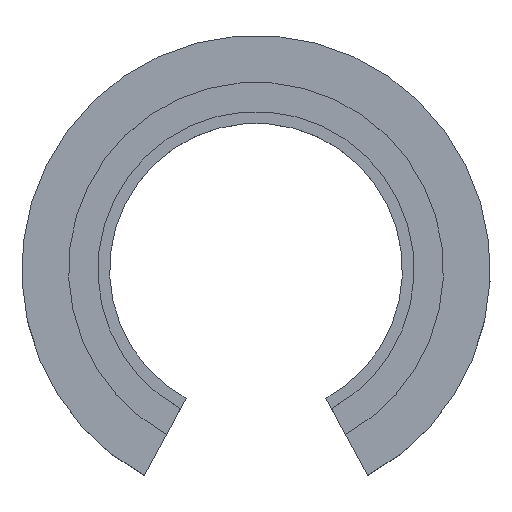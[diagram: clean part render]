
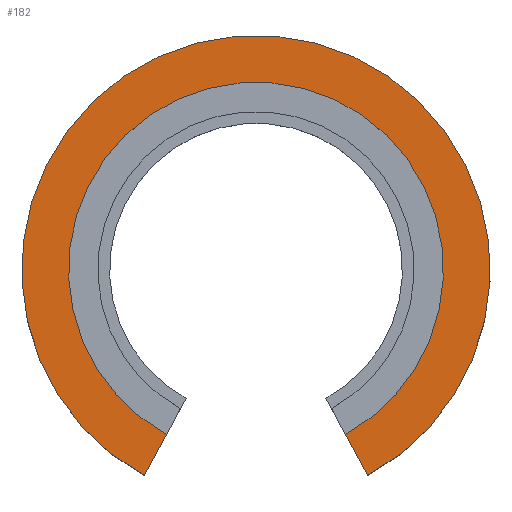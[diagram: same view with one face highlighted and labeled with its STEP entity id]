
A CAD part, top view. The second image highlights one B-rep face of the part: STEP entity #182.
In plain terms, the highlighted planar face has unit normal (0, 0, 1).
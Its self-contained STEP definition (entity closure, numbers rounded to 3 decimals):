
#22=CIRCLE('',#231,16.);
#23=CIRCLE('',#233,20.);
#36=FACE_OUTER_BOUND('',#46,.T.);
#46=EDGE_LOOP('',(#151,#152,#153,#154));
#52=LINE('',#307,#68);
#66=LINE('',#335,#82);
#68=VECTOR('',#249,10.);
#82=VECTOR('',#265,10.);
#83=VERTEX_POINT('',#303);
#85=VERTEX_POINT('',#306);
#92=VERTEX_POINT('',#321);
#98=VERTEX_POINT('',#333);
#100=EDGE_CURVE('',#85,#83,#52,.T.);
#114=EDGE_CURVE('',#92,#98,#66,.T.);
#118=EDGE_CURVE('',#98,#85,#22,.T.);
#119=EDGE_CURVE('',#83,#92,#23,.T.);
#151=ORIENTED_EDGE('',*,*,#100,.T.);
#152=ORIENTED_EDGE('',*,*,#119,.T.);
#153=ORIENTED_EDGE('',*,*,#114,.T.);
#154=ORIENTED_EDGE('',*,*,#118,.T.);
#174=PLANE('',#232);
#182=ADVANCED_FACE('',(#36),#174,.T.);
#231=AXIS2_PLACEMENT_3D('',#342,#278,#279);
#232=AXIS2_PLACEMENT_3D('',#343,#280,#281);
#233=AXIS2_PLACEMENT_3D('',#344,#282,#283);
#249=DIRECTION('',(0.477,-0.879,0.));
#265=DIRECTION('',(0.477,0.879,0.));
#278=DIRECTION('center_axis',(0.,0.,-1.));
#279=DIRECTION('ref_axis',(-1.,0.,0.));
#280=DIRECTION('center_axis',(0.,0.,1.));
#281=DIRECTION('ref_axis',(1.,0.,0.));
#282=DIRECTION('center_axis',(0.,0.,1.));
#283=DIRECTION('ref_axis',(1.,0.,0.));
#303=CARTESIAN_POINT('',(9.543,-17.576,2.));
#306=CARTESIAN_POINT('',(7.635,-14.061,2.));
#307=CARTESIAN_POINT('',(0.,0.,2.));
#321=CARTESIAN_POINT('',(-9.543,-17.576,2.));
#333=CARTESIAN_POINT('',(-7.635,-14.061,2.));
#335=CARTESIAN_POINT('',(-6.382,-11.754,2.));
#342=CARTESIAN_POINT('Origin',(0.,0.,2.));
#343=CARTESIAN_POINT('Origin',(0.,0.,2.));
#344=CARTESIAN_POINT('Origin',(0.,0.,2.));
